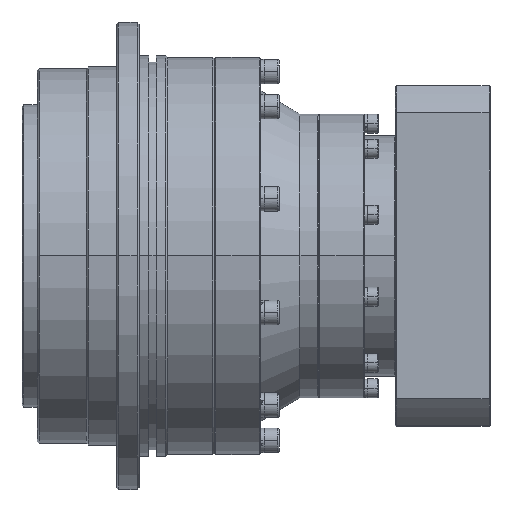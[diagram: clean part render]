
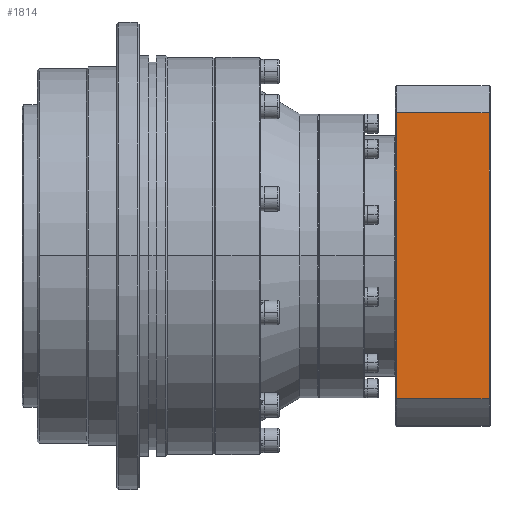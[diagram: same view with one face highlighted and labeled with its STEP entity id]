
A CAD part, top view. The second image highlights one B-rep face of the part: STEP entity #1814.
In plain terms, the highlighted planar face has unit normal (0, 0, 1).
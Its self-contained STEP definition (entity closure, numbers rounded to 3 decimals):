
#596 = CARTESIAN_POINT ( 'NONE',  ( 50., -90., 90. ) ) ;
#1797 = ORIENTED_EDGE ( 'NONE', *, *, #27525, .F. ) ;
#1814 = ADVANCED_FACE ( 'NONE', ( #42199 ), #29669, .F. ) ;
#2261 = VECTOR ( 'NONE', #7515, 1000. ) ;
#3995 = LINE ( 'NONE', #22253, #43549 ) ;
#4091 = DIRECTION ( 'NONE',  ( 0., 0., -1. ) ) ;
#6177 = EDGE_LOOP ( 'NONE', ( #18972, #17014, #31083, #1797 ) ) ;
#6642 = VERTEX_POINT ( 'NONE', #7311 ) ;
#7311 = CARTESIAN_POINT ( 'NONE',  ( 0.5, -75.54, 90. ) ) ;
#7371 = LINE ( 'NONE', #29134, #2261 ) ;
#7515 = DIRECTION ( 'NONE',  ( -1., 0., 0. ) ) ;
#8558 = VERTEX_POINT ( 'NONE', #33882 ) ;
#9238 = LINE ( 'NONE', #30827, #38560 ) ;
#10380 = VERTEX_POINT ( 'NONE', #20037 ) ;
#13083 = AXIS2_PLACEMENT_3D ( 'NONE', #596, #4091, #18439 ) ;
#16575 = CARTESIAN_POINT ( 'NONE',  ( 0.5, -90., 90. ) ) ;
#17014 = ORIENTED_EDGE ( 'NONE', *, *, #40389, .F. ) ;
#17318 = EDGE_CURVE ( 'NONE', #17596, #8558, #3995, .T. ) ;
#17596 = VERTEX_POINT ( 'NONE', #45519 ) ;
#18439 = DIRECTION ( 'NONE',  ( -1., 0., 0. ) ) ;
#18972 = ORIENTED_EDGE ( 'NONE', *, *, #17318, .T. ) ;
#19926 = DIRECTION ( 'NONE',  ( 1., 0., 0. ) ) ;
#20037 = CARTESIAN_POINT ( 'NONE',  ( 0.5, 75.54, 90. ) ) ;
#20538 = DIRECTION ( 'NONE',  ( 0., 1., 0. ) ) ;
#22253 = CARTESIAN_POINT ( 'NONE',  ( 49.5, 90., 90. ) ) ;
#27525 = EDGE_CURVE ( 'NONE', #17596, #6642, #7371, .T. ) ;
#29134 = CARTESIAN_POINT ( 'NONE',  ( 50., -75.54, 90. ) ) ;
#29669 = PLANE ( 'NONE',  #13083 ) ;
#30827 = CARTESIAN_POINT ( 'NONE',  ( 50., 75.54, 90. ) ) ;
#31083 = ORIENTED_EDGE ( 'NONE', *, *, #37318, .F. ) ;
#33026 = DIRECTION ( 'NONE',  ( 0., 1., 0. ) ) ;
#33882 = CARTESIAN_POINT ( 'NONE',  ( 49.5, 75.54, 90. ) ) ;
#35148 = VECTOR ( 'NONE', #20538, 1000. ) ;
#37318 = EDGE_CURVE ( 'NONE', #6642, #10380, #45932, .T. ) ;
#38560 = VECTOR ( 'NONE', #19926, 1000. ) ;
#40389 = EDGE_CURVE ( 'NONE', #10380, #8558, #9238, .T. ) ;
#42199 = FACE_OUTER_BOUND ( 'NONE', #6177, .T. ) ;
#43549 = VECTOR ( 'NONE', #33026, 1000. ) ;
#45519 = CARTESIAN_POINT ( 'NONE',  ( 49.5, -75.54, 90. ) ) ;
#45932 = LINE ( 'NONE', #16575, #35148 ) ;
